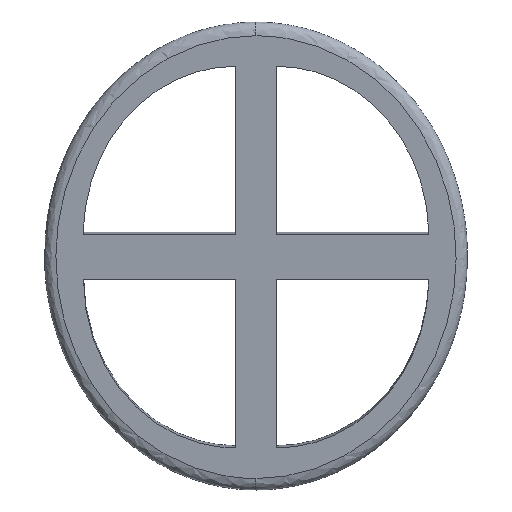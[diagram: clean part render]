
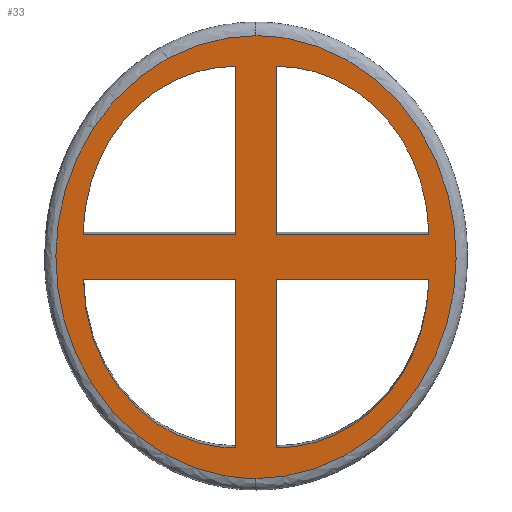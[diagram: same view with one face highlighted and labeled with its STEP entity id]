
A CAD part, front view. The second image highlights one B-rep face of the part: STEP entity #33.
In plain terms, the highlighted planar face has unit normal (-0.001, -0.994, -0.107).
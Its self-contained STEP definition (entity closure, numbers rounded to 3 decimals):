
#24=FACE_BOUND('',#70,.T.);
#25=FACE_BOUND('',#71,.T.);
#26=FACE_BOUND('',#72,.T.);
#27=FACE_BOUND('',#73,.T.);
#33=ADVANCED_FACE('',(#51,#24,#25,#26,#27),#308,.T.);
#51=FACE_OUTER_BOUND('',#69,.T.);
#69=EDGE_LOOP('',(#98,#99));
#70=EDGE_LOOP('',(#100,#101,#102));
#71=EDGE_LOOP('',(#103,#104,#105));
#72=EDGE_LOOP('',(#106,#107,#108));
#73=EDGE_LOOP('',(#109,#110,#111));
#98=ORIENTED_EDGE('',*,*,#197,.T.);
#99=ORIENTED_EDGE('',*,*,#231,.T.);
#100=ORIENTED_EDGE('',*,*,#204,.F.);
#101=ORIENTED_EDGE('',*,*,#189,.F.);
#102=ORIENTED_EDGE('',*,*,#188,.F.);
#103=ORIENTED_EDGE('',*,*,#190,.F.);
#104=ORIENTED_EDGE('',*,*,#208,.F.);
#105=ORIENTED_EDGE('',*,*,#191,.F.);
#106=ORIENTED_EDGE('',*,*,#192,.F.);
#107=ORIENTED_EDGE('',*,*,#215,.F.);
#108=ORIENTED_EDGE('',*,*,#193,.F.);
#109=ORIENTED_EDGE('',*,*,#225,.T.);
#110=ORIENTED_EDGE('',*,*,#194,.T.);
#111=ORIENTED_EDGE('',*,*,#195,.T.);
#188=EDGE_CURVE('',#279,#280,#232,.T.);
#189=EDGE_CURVE('',#280,#281,#233,.T.);
#190=EDGE_CURVE('',#283,#284,#234,.T.);
#191=EDGE_CURVE('',#284,#282,#235,.T.);
#192=EDGE_CURVE('',#286,#287,#236,.T.);
#193=EDGE_CURVE('',#287,#285,#237,.T.);
#194=EDGE_CURVE('',#288,#289,#238,.T.);
#195=EDGE_CURVE('',#289,#290,#239,.T.);
#197=EDGE_CURVE('',#303,#307,#259,.T.);
#204=EDGE_CURVE('',#281,#279,#261,.T.);
#208=EDGE_CURVE('',#282,#283,#265,.T.);
#215=EDGE_CURVE('',#285,#286,#269,.T.);
#225=EDGE_CURVE('',#290,#288,#271,.T.);
#231=EDGE_CURVE('',#307,#303,#277,.T.);
#232=B_SPLINE_CURVE_WITH_KNOTS('',1,(#1213,#1214),.UNSPECIFIED.,.F.,.F.,
(2,2),(6.283,6.783),.UNSPECIFIED.);
#233=B_SPLINE_CURVE_WITH_KNOTS('',1,(#1215,#1216),.UNSPECIFIED.,.F.,.F.,
(2,2),(6.783,7.783),.UNSPECIFIED.);
#234=B_SPLINE_CURVE_WITH_KNOTS('',1,(#1217,#1218),.UNSPECIFIED.,.F.,.F.,
(2,2),(5.142,6.142),.UNSPECIFIED.);
#235=B_SPLINE_CURVE_WITH_KNOTS('',1,(#1219,#1220),.UNSPECIFIED.,.F.,.F.,
(2,2),(6.142,6.642),.UNSPECIFIED.);
#236=B_SPLINE_CURVE_WITH_KNOTS('',1,(#1221,#1222),.UNSPECIFIED.,.F.,.F.,
(2,2),(6.142,7.142),.UNSPECIFIED.);
#237=B_SPLINE_CURVE_WITH_KNOTS('',1,(#1223,#1224),.UNSPECIFIED.,.F.,.F.,
(2,2),(7.142,7.642),.UNSPECIFIED.);
#238=B_SPLINE_CURVE_WITH_KNOTS('',1,(#1225,#1226),.UNSPECIFIED.,.F.,.F.,
(2,2),(0.,1.),.UNSPECIFIED.);
#239=B_SPLINE_CURVE_WITH_KNOTS('',1,(#1227,#1228),.UNSPECIFIED.,.F.,.F.,
(2,2),(1.,1.5),.UNSPECIFIED.);
#259=(
BOUNDED_CURVE()
B_SPLINE_CURVE(2,(#1234,#1235,#1236,#1237,#1238),.UNSPECIFIED.,.F.,.F.)
B_SPLINE_CURVE_WITH_KNOTS((3,2,3),(0.,1.571,3.142),
 .UNSPECIFIED.)
CURVE()
GEOMETRIC_REPRESENTATION_ITEM()
RATIONAL_B_SPLINE_CURVE((1.,0.707,1.,0.707,1.))
REPRESENTATION_ITEM('')
);
#261=(
BOUNDED_CURVE()
B_SPLINE_CURVE(2,(#1252,#1253,#1254),.UNSPECIFIED.,.F.,.F.)
B_SPLINE_CURVE_WITH_KNOTS((3,3),(7.783,9.354),
 .UNSPECIFIED.)
CURVE()
GEOMETRIC_REPRESENTATION_ITEM()
RATIONAL_B_SPLINE_CURVE((1.,0.707,1.))
REPRESENTATION_ITEM('')
);
#265=(
BOUNDED_CURVE()
B_SPLINE_CURVE(2,(#1262,#1263,#1264),.UNSPECIFIED.,.F.,.F.)
B_SPLINE_CURVE_WITH_KNOTS((3,3),(3.571,5.142),
 .UNSPECIFIED.)
CURVE()
GEOMETRIC_REPRESENTATION_ITEM()
RATIONAL_B_SPLINE_CURVE((1.,0.707,1.))
REPRESENTATION_ITEM('')
);
#269=(
BOUNDED_CURVE()
B_SPLINE_CURVE(2,(#1278,#1279,#1280),.UNSPECIFIED.,.F.,.F.)
B_SPLINE_CURVE_WITH_KNOTS((3,3),(4.571,6.142),
 .UNSPECIFIED.)
CURVE()
GEOMETRIC_REPRESENTATION_ITEM()
RATIONAL_B_SPLINE_CURVE((1.,0.707,1.))
REPRESENTATION_ITEM('')
);
#271=(
BOUNDED_CURVE()
B_SPLINE_CURVE(2,(#1300,#1301,#1302),.UNSPECIFIED.,.F.,.F.)
B_SPLINE_CURVE_WITH_KNOTS((3,3),(1.5,3.071),.UNSPECIFIED.)
CURVE()
GEOMETRIC_REPRESENTATION_ITEM()
RATIONAL_B_SPLINE_CURVE((1.,0.707,1.))
REPRESENTATION_ITEM('')
);
#277=(
BOUNDED_CURVE()
B_SPLINE_CURVE(2,(#1371,#1372,#1373,#1374,#1375),.UNSPECIFIED.,.F.,.F.)
B_SPLINE_CURVE_WITH_KNOTS((3,2,3),(3.142,4.712,6.283),
 .UNSPECIFIED.)
CURVE()
GEOMETRIC_REPRESENTATION_ITEM()
RATIONAL_B_SPLINE_CURVE((1.,0.707,1.,0.707,1.))
REPRESENTATION_ITEM('')
);
#279=VERTEX_POINT('',#1127);
#280=VERTEX_POINT('',#1128);
#281=VERTEX_POINT('',#1129);
#282=VERTEX_POINT('',#1130);
#283=VERTEX_POINT('',#1131);
#284=VERTEX_POINT('',#1132);
#285=VERTEX_POINT('',#1133);
#286=VERTEX_POINT('',#1134);
#287=VERTEX_POINT('',#1135);
#288=VERTEX_POINT('',#1136);
#289=VERTEX_POINT('',#1137);
#290=VERTEX_POINT('',#1138);
#303=VERTEX_POINT('',#1151);
#307=VERTEX_POINT('',#1155);
#308=PLANE('',#346);
#346=AXIS2_PLACEMENT_3D('',#552,#359,$);
#359=DIRECTION('',(-0.001,-0.994,-0.107));
#552=CARTESIAN_POINT('',(-28.659,-91.107,-23.451));
#1127=CARTESIAN_POINT('',(-2.95,-91.666,-18.555));
#1128=CARTESIAN_POINT('',(-2.95,-94.204,4.99));
#1129=CARTESIAN_POINT('',(-24.231,-94.179,4.992));
#1130=CARTESIAN_POINT('',(-2.95,-97.423,34.845));
#1131=CARTESIAN_POINT('',(-24.231,-94.859,11.304));
#1132=CARTESIAN_POINT('',(-2.95,-94.885,11.301));
#1133=CARTESIAN_POINT('',(2.754,-91.673,-18.556));
#1134=CARTESIAN_POINT('',(24.035,-94.237,4.986));
#1135=CARTESIAN_POINT('',(2.754,-94.211,4.989));
#1136=CARTESIAN_POINT('',(24.035,-94.917,11.297));
#1137=CARTESIAN_POINT('',(2.754,-94.892,11.3));
#1138=CARTESIAN_POINT('',(2.754,-97.43,34.845));
#1151=CARTESIAN_POINT('',(-0.098,-91.208,-22.835));
#1155=CARTESIAN_POINT('',(-0.098,-97.888,39.125));
#1213=CARTESIAN_POINT('',(-2.95,-91.666,-18.555));
#1214=CARTESIAN_POINT('',(-2.95,-94.204,4.99));
#1215=CARTESIAN_POINT('',(-2.95,-94.204,4.99));
#1216=CARTESIAN_POINT('',(-24.231,-94.179,4.992));
#1217=CARTESIAN_POINT('',(-24.231,-94.859,11.304));
#1218=CARTESIAN_POINT('',(-2.95,-94.885,11.301));
#1219=CARTESIAN_POINT('',(-2.95,-94.885,11.301));
#1220=CARTESIAN_POINT('',(-2.95,-97.423,34.845));
#1221=CARTESIAN_POINT('',(24.035,-94.237,4.986));
#1222=CARTESIAN_POINT('',(2.754,-94.211,4.989));
#1223=CARTESIAN_POINT('',(2.754,-94.211,4.989));
#1224=CARTESIAN_POINT('',(2.754,-91.673,-18.556));
#1225=CARTESIAN_POINT('',(24.035,-94.917,11.297));
#1226=CARTESIAN_POINT('',(2.754,-94.892,11.3));
#1227=CARTESIAN_POINT('',(2.754,-94.892,11.3));
#1228=CARTESIAN_POINT('',(2.754,-97.43,34.845));
#1234=CARTESIAN_POINT('',(-0.098,-91.208,-22.835));
#1235=CARTESIAN_POINT('',(27.903,-91.241,-22.839));
#1236=CARTESIAN_POINT('',(27.903,-94.582,8.141));
#1237=CARTESIAN_POINT('',(27.903,-97.922,39.121));
#1238=CARTESIAN_POINT('',(-0.098,-97.888,39.125));
#1252=CARTESIAN_POINT('',(-24.231,-94.179,4.992));
#1253=CARTESIAN_POINT('',(-24.231,-91.64,-18.552));
#1254=CARTESIAN_POINT('',(-2.95,-91.666,-18.555));
#1262=CARTESIAN_POINT('',(-2.95,-97.423,34.845));
#1263=CARTESIAN_POINT('',(-24.231,-97.397,34.848));
#1264=CARTESIAN_POINT('',(-24.231,-94.859,11.304));
#1278=CARTESIAN_POINT('',(2.754,-91.673,-18.556));
#1279=CARTESIAN_POINT('',(24.035,-91.698,-18.558));
#1280=CARTESIAN_POINT('',(24.035,-94.237,4.986));
#1300=CARTESIAN_POINT('',(2.754,-97.43,34.845));
#1301=CARTESIAN_POINT('',(24.035,-97.456,34.842));
#1302=CARTESIAN_POINT('',(24.035,-94.917,11.297));
#1371=CARTESIAN_POINT('',(-0.098,-97.888,39.125));
#1372=CARTESIAN_POINT('',(-28.099,-97.854,39.128));
#1373=CARTESIAN_POINT('',(-28.099,-94.514,8.148));
#1374=CARTESIAN_POINT('',(-28.099,-91.174,-22.831));
#1375=CARTESIAN_POINT('',(-0.098,-91.208,-22.835));
